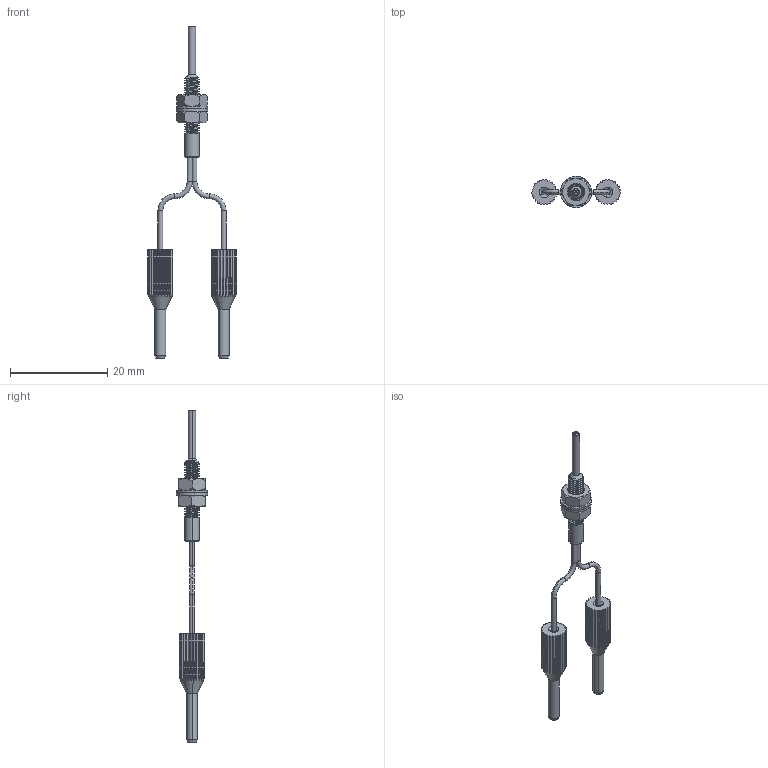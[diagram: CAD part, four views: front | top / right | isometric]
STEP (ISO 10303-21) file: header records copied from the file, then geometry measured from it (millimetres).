
FILE_DESCRIPTION (( 'STEP AP214' ), '1' );
FILE_NAME ('DM-32.STEP', '2025-09-26T03:06:02', ( 'Windows User' ), ( 'P R C' ), 'SwSTEP 2.0', 'SolidWorks 2023', '' );
FILE_SCHEMA (( 'AUTOMOTIVE_DESIGN' ));
Length unit declared in the file: millimetre
Products named in the file (8): SD2008370-密封压盖（1.0光纤） ; 2×0.5光纤芯线; SD2008371-支座（1.0光纤） ; 1.0光纤线; SD1200031-6.4×0.5 垫片; DM-32; SDxxxxx-DM-32壳体; SD1300028-螺帽M3×0.5-SW5.5×2.4
Assembly tree (12 placements, depth 2):
  DM-32
    SDxxxxx-DM-32壳体
    1.0光纤线  x2
    2×0.5光纤芯线
    SD1200031-6.4×0.5 垫片  x2
    SD1300028-螺帽M3×0.5-SW5.5×2.4  x2
    SD2008370-密封压盖（1.0光纤）   x2
    SD2008371-支座（1.0光纤）   x2
Bounding box: 18.19 x 6.4 x 68.25 mm (x, y, z)
Volume: 663.4 mm3; surface area: 1983.2 mm2
Topology: 13 solids, 13 shells, 835 faces, 2309 edges, 1500 vertices
Faces by surface type: cylinder 339, plane 266, cone 115, bspline 99, torus 16
Entity records: 25832 total; most frequent: CARTESIAN_POINT 14695, ORIENTED_EDGE 2526, DIRECTION 1984, EDGE_CURVE 1263, VERTEX_POINT 819, AXIS2_PLACEMENT_3D 731, VECTOR 522, LINE 522
